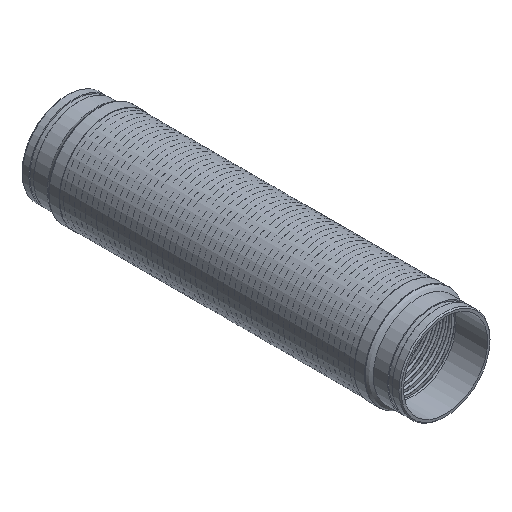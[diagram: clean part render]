
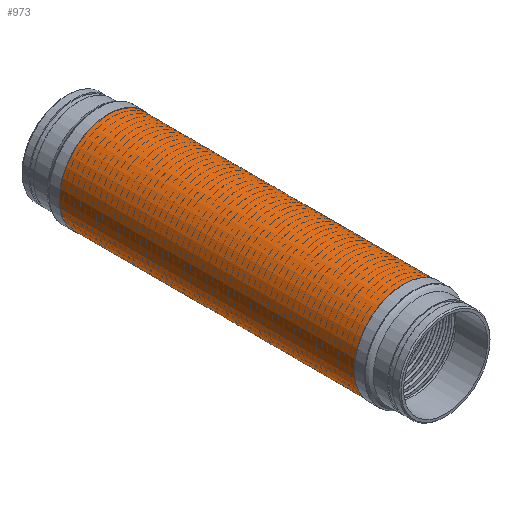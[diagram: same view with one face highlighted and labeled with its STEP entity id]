
A CAD part, isometric view. The second image highlights one B-rep face of the part: STEP entity #973.
In plain terms, the highlighted cylindrical face has radius 117.983 mm (diameter 235.966 mm), a full revolution.
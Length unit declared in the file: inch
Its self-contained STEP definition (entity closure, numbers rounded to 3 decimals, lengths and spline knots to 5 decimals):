
#939=CARTESIAN_POINT('',(-4.645,-15.,0.));
#940=VERTEX_POINT('',#939);
#941=CARTESIAN_POINT('',(0.0,-15.,0.0));
#942=DIRECTION('',(0.0,1.0,0.0));
#943=DIRECTION('',(1.0,0.0,0.0));
#944=AXIS2_PLACEMENT_3D('',#941,#942,#943);
#945=CIRCLE('',#944,4.645);
#946=EDGE_CURVE('',#940,#940,#945,.T.);
#954=CARTESIAN_POINT('',(0.0,0.0,0.0));
#955=DIRECTION('',(0.0,1.0,0.0));
#956=DIRECTION('',(1.0,0.0,0.0));
#957=AXIS2_PLACEMENT_3D('',#954,#955,#956);
#958=CYLINDRICAL_SURFACE('',#957,4.645);
#959=ORIENTED_EDGE('',*,*,#946,.T.);
#960=EDGE_LOOP('',(#959));
#961=FACE_OUTER_BOUND('',#960,.T.);
#962=CARTESIAN_POINT('',(-4.645,15.,0.));
#963=VERTEX_POINT('',#962);
#964=CARTESIAN_POINT('',(0.0,15.,0.0));
#965=DIRECTION('',(0.0,-1.0,0.0));
#966=DIRECTION('',(1.0,0.0,0.0));
#967=AXIS2_PLACEMENT_3D('',#964,#965,#966);
#968=CIRCLE('',#967,4.645);
#969=EDGE_CURVE('',#963,#963,#968,.T.);
#970=ORIENTED_EDGE('',*,*,#969,.T.);
#971=EDGE_LOOP('',(#970));
#972=FACE_BOUND('',#971,.T.);
#973=ADVANCED_FACE('',(#961,#972),#958,.T.);
